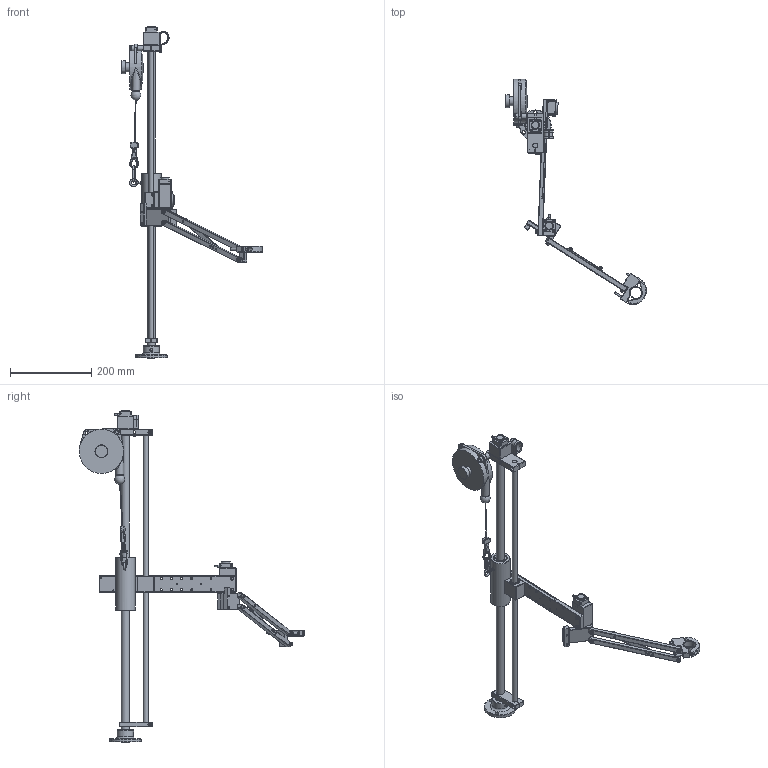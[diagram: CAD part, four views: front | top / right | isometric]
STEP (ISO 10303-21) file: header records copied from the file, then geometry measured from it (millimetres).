
FILE_DESCRIPTION(/* description */ ('Unknown'),/* implementation_level */ '2;1');
FILE_NAME(/* name */ '4-1201010_bras BA 12 RPC',/* time_stamp */ '2016-04-06T14:48:58+02:00',/* author */ ('Unknown'),/* organization */ ('Unknown'),/* preprocessor_version */ 'ST-DEVELOPER v16',/* originating_system */ 'DEX',/* authorisation */ $);
FILE_SCHEMA (('AUTOMOTIVE_DESIGN {1 0 10303 214 3 1 1}'));
Length unit declared in the file: millimetre
Products named in the file (52): 4-1201010_bras BA 12 RPC; Pince BA12R; CHC M5x45 fileté sous tête; Collier; Pince ; Placement; Sous ensemble avant bras BA12R; Carré supérieur; Règle immobilisatrice; Carré inférieur; Pivot N°1 - BA12R DPA; CHC M5x35; CHC M5x25; CHC M5x16; 16 Z; Axe ﾘ12 DPA; Platine support butée - BA12R DPA; Vis HC M6x8 à bout plat; Butée BA12R DPA; Aimant; Sous ensemble arrière bras BA12R; FHC M5x20; Pivot N°2 - BA12R DPA; Douille KB20; Plaque support BA 12 R RPC; Fourreau; Piton M5; Roulement à aiguilles HK1616; Capteur de position angulaire QUADRO-R; Anneau élastique pour arbre 12; Rondelle AS1226; Butée à aiguilles AXK1226; Douille KB12; Boitier de dérivation; Pivot N°3 - BA12R DPA; Cable; Mat BA12R DPA; Equilibreur 3-5 Kg; fourreau pour BA12R DPA; Roulement à aiguilles HK1212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
Assembly tree (72 placements, depth 3):
  4-1201010_bras BA 12 RPC
    Pince BA12R
      CHC M5x45 fileté sous tête  x2
      Collier
      Pince 
      Placement
    Sous ensemble avant bras BA12R
      Carré supérieur
      Règle immobilisatrice
      Carré inférieur
      Pivot N°1 - BA12R DPA
      CHC M5x35  x2
      CHC M5x25  x2
      CHC M5x16  x2
      16 Z
      Axe ﾘ12 DPA
      Platine support butée - BA12R DPA
      Vis HC M6x8 à bout plat  x2
      Butée BA12R DPA
      Aimant
    Sous ensemble arrière bras BA12R
      CHC M5x25  x2
      FHC M5x20  x4
      Pivot N°2 - BA12R DPA
      Douille KB20  x2
      Plaque support BA 12 R RPC
      Fourreau
      Piton M5
      Roulement à aiguilles HK1616  x2
      Capteur de position angulaire QUADRO-R
      Anneau élastique pour arbre 12
      Rondelle AS1226  x2
      Butée à aiguilles AXK1226
      Douille KB12
      Boitier de dérivation
      Pivot N°3 - BA12R DPA
    Cable
    Mat BA12R DPA
      Equilibreur 3-5 Kg
      fourreau pour BA12R DPA
      Roulement à aiguilles HK1212  x2
      Capteur de position angulaire QUADRO-R
      Platine fixation fourreau pour BA12R
      Axe Ø12 x 732 - BA12R DPA
      Platine fixation N°2 - BA12R DPA
      CHC M8x50
      CHC M4x20  x4
      Entretoise
      Axe Ø20 x 800 - BA12R DPA
      Vis HC M8x10 à bout plat
      Anneau élastique pour arbre 12
      Rondelle AS1226  x2
      Butée à aiguilles AXK1226
      Pied
      Aimant
    Collier larg 20
Bounding box: 346.11 x 554.29 x 816 mm (x, y, z)
Volume: 1513100 mm3; surface area: 417773.3 mm2
Topology: 69 solids, 69 shells, 1689 faces, 3969 edges, 2496 vertices
Faces by surface type: plane 934, cylinder 596, cone 108, torus 40, sphere 8, bspline 3
Full cylindrical faces by diameter (mm): 1 x4, 2 x1, 2.459 x13, 2.5 x6, 3.2 x4, 3.242 x12, 3.5 x2, 3.8 x4, 4 x8, 4.134 x8, 4.2 x20, 4.3 x2, 4.5 x1, 4.8 x10, 4.917 x2, 5 x43, 5.5 x4, 6 x9, 6.5 x1, 6.647 x2, 6.8 x1, 7 x4, 7.5 x1, 7.8 x1, 8 x5, 8.5 x13, 9 x7, 11 x1, 11.5 x2, 12 x15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
Entity records: 60656 total; most frequent: CARTESIAN_POINT 27391, DIRECTION 6518, ORIENTED_EDGE 5798, EDGE_CURVE 2899, AXIS2_PLACEMENT_3D 2490, FACE_BOUND 2014, EDGE_LOOP 1985, VERTEX_POINT 1963
